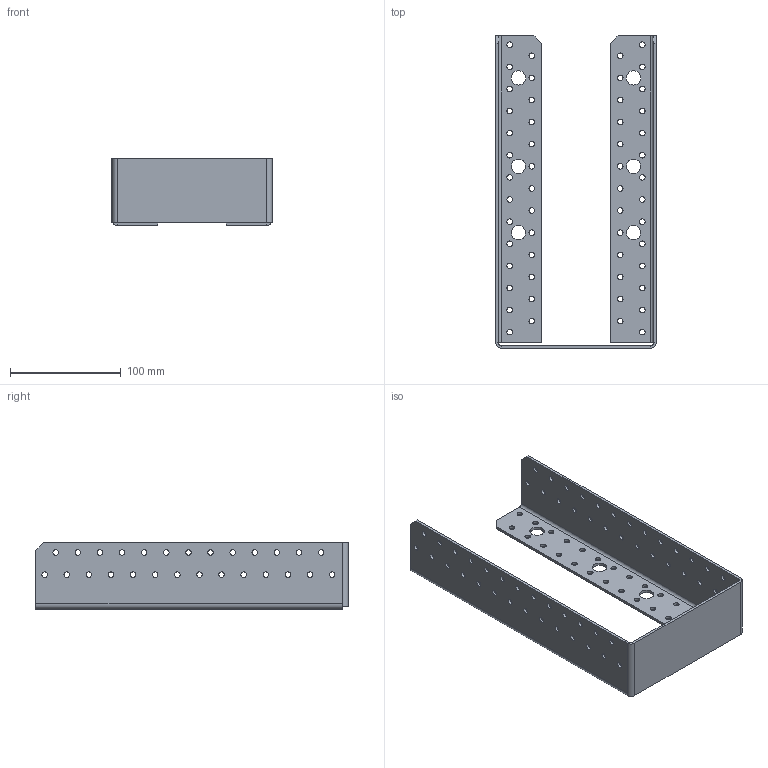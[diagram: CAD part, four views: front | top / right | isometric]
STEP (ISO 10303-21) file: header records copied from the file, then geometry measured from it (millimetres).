
FILE_DESCRIPTION (( 'STEP AP203' ), '1' );
FILE_NAME ('40510IKO.STEP', '2021-04-16T08:24:19', ( '' ), ( '' ), 'SwSTEP 2.0', 'SolidWorks 2013', '' );
FILE_SCHEMA (( 'CONFIG_CONTROL_DESIGN' ));
Length unit declared in the file: millimetre
Products named in the file (1): 40510IKO
Bounding box: 145 x 282.5 x 60.5 mm (x, y, z)
Volume: 149568.9 mm3; surface area: 128667.8 mm2
Topology: 1 solids, 1 shells, 272 faces, 780 edges, 510 vertices
Faces by surface type: cylinder 236, plane 36
Entity records: 9671 total; most frequent: DIRECTION 1800, CARTESIAN_POINT 1563, ORIENTED_EDGE 1560, EDGE_CURVE 780, AXIS2_PLACEMENT_3D 747, VERTEX_POINT 510, EDGE_LOOP 500, CIRCLE 474
